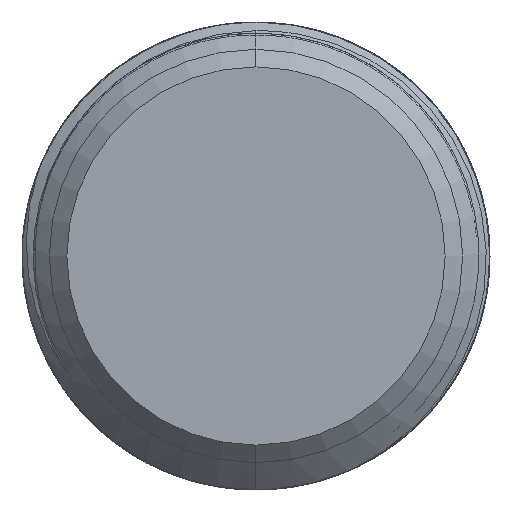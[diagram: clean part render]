
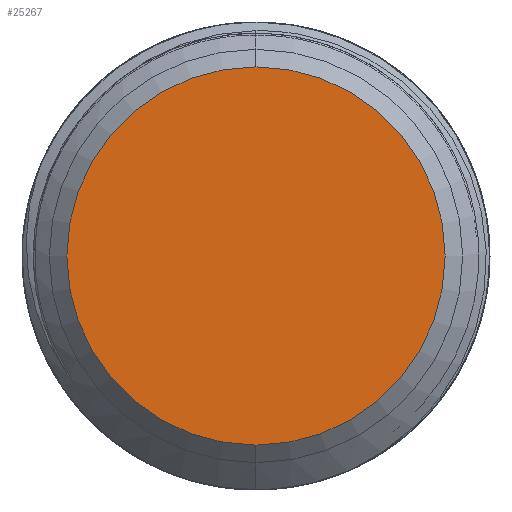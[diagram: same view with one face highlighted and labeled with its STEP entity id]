
A CAD part, left-side view. The second image highlights one B-rep face of the part: STEP entity #25267.
In plain terms, the highlighted planar face has unit normal (-1, 0, 0).
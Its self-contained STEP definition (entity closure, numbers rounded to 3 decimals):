
#9541=CARTESIAN_POINT('',(-4.1,0.,0.));
#9542=DIRECTION('',(-1.,0.,0.));
#9543=DIRECTION('',(0.,0.,-1.));
#9544=AXIS2_PLACEMENT_3D('',#9541,#9542,#9543);
#9546=CARTESIAN_POINT('',(-4.1,0.,0.));
#9547=DIRECTION('',(-1.,0.,0.));
#9548=DIRECTION('',(0.,0.,1.));
#9549=AXIS2_PLACEMENT_3D('',#9546,#9547,#9548);
#9619=CARTESIAN_POINT('',(-4.1,0.,-4.85));
#9620=CARTESIAN_POINT('',(-4.1,0.,4.85));
#9621=VERTEX_POINT('',#9619);
#9622=VERTEX_POINT('',#9620);
#25257=CARTESIAN_POINT('',(-4.1,0.,0.));
#25258=DIRECTION('',(1.,0.,0.));
#25259=DIRECTION('',(0.,0.,1.));
#25260=AXIS2_PLACEMENT_3D('',#25257,#25258,#25259);
#25261=PLANE('',#25260);
#25262=ORIENTED_EDGE('',*,*,#25247,.F.);
#25264=ORIENTED_EDGE('',*,*,#25263,.F.);
#25265=EDGE_LOOP('',(#25262,#25264));
#25266=FACE_OUTER_BOUND('',#25265,.F.);
#25267=ADVANCED_FACE('',(#25266),#25261,.F.);
#9545=CIRCLE('',#9544,4.85);
#9550=CIRCLE('',#9549,4.85);
#25247=EDGE_CURVE('',#9621,#9622,#9545,.T.);
#25263=EDGE_CURVE('',#9622,#9621,#9550,.T.);
